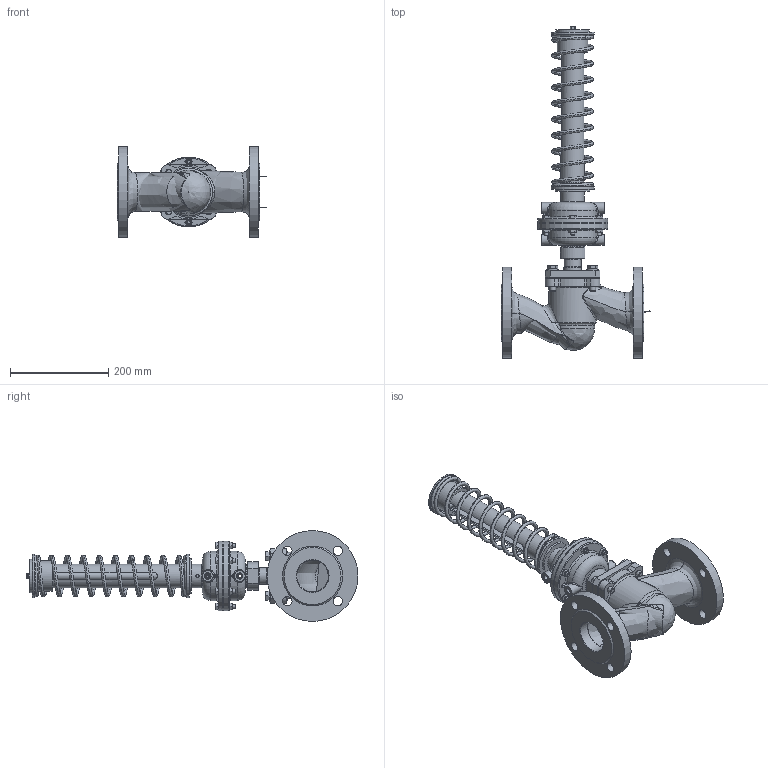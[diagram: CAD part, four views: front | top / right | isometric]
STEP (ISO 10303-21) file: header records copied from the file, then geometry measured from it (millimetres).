
FILE_DESCRIPTION(('STEP AP203'), '1');
FILE_NAME('ra-m_65_1z2_31_42_002', '2016-02-02T11:17:26', (''), (''), 'ASCON STEP Converter 1.3', 'ASCON Math Kernel', '');
FILE_SCHEMA(('CONFIG_CONTROL_DESIGN'));
Length unit declared in the file: millimetre
Products named in the file (68): 135; 136; 137; 138; 139; 140; 141; 142; 143; 144; 145; 146; 147; 148; 149; 150; 151; 152; 153; 154; 155; 156; 157; 158; 159; 160; 161; 162; 163; 164; 165; 166; 167; 168; 169; 170; 171; 172; 173; 174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
Assembly tree (67 placements, depth 2):
  135
    136
    137
    138
    139
    140
    141
    142
    143
    144
    145
    146
    147
    148
    149
    150
    151
    152
    153
    154
    155
    156
    157
    158
    159
    160
    161
    162
    163
    164
    165
    166
    167
    168
    169
    170
    171
    172
    173
    174
    175
    176
    177
    178
    179
    180
    181
    182
    183
    184
    185
    186
    187
    188
    189
    190
    191
    192
    193
    194
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Bounding box: 303.59 x 675.5 x 185 mm (x, y, z)
Volume: 1203038.6 mm3; surface area: 750060.9 mm2
Topology: 36 solids, 69 shells, 848 faces, 1957 edges, 1249 vertices
Faces by surface type: plane 303, cylinder 249, cone 115, bspline 108, torus 70, sphere 3
Full cylindrical faces by diameter (mm): 2 x1, 4 x1, 5 x1, 6 x1, 6.5 x7, 6.6 x6, 7 x4, 8 x12, 9 x12, 10 x1, 10.1 x4, 10.5 x8, 11 x2, 12 x15, 13 x4, 13.7 x1, 14 x5, 14.5 x3, 15 x3, 16 x2, 19 x8, 20 x6, 22 x4, 24 x4, 26.4 x1, 28 x1, 30 x4, 31.5 x1, 33.8 x1, 34 x3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
Entity records: 70745 total; most frequent: CARTESIAN_POINT 42481, ORIENTED_EDGE 3764, DIRECTION 3591, EDGE_CURVE 1952, AXIS2_PLACEMENT_3D 1483, VERTEX_POINT 1249, EDGE_LOOP 1042, ADVANCED_FACE 848
